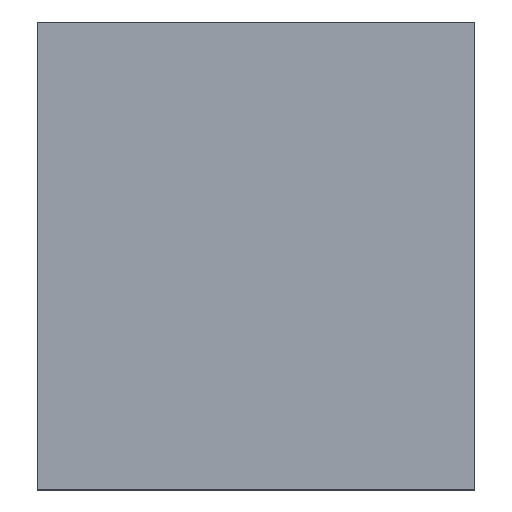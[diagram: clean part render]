
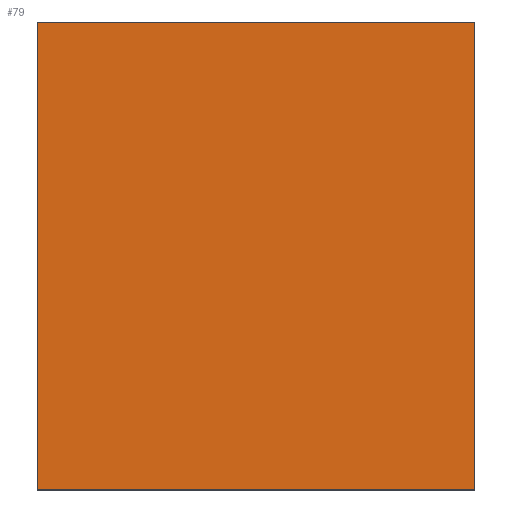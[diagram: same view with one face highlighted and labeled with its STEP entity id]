
A CAD part, top view. The second image highlights one B-rep face of the part: STEP entity #79.
In plain terms, the highlighted planar face has unit normal (0, 0, 1).
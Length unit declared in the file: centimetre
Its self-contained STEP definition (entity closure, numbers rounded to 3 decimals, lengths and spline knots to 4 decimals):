
#79=ADVANCED_FACE($,(#157),#885,.T.);
#157=FACE_OUTER_BOUND($,#235,.T.);
#235=EDGE_LOOP($,(#436,#437,#438,#439));
#436=ORIENTED_EDGE($,*,*,#663,.F.);
#437=ORIENTED_EDGE($,*,*,#662,.F.);
#438=ORIENTED_EDGE($,*,*,#661,.F.);
#439=ORIENTED_EDGE($,*,*,#660,.F.);
#660=EDGE_CURVE($,#792,#793,#998,.T.);
#661=EDGE_CURVE($,#793,#794,#999,.T.);
#662=EDGE_CURVE($,#794,#795,#1000,.T.);
#663=EDGE_CURVE($,#795,#792,#1001,.T.);
#792=VERTEX_POINT($,#1590);
#793=VERTEX_POINT($,#1591);
#794=VERTEX_POINT($,#1592);
#795=VERTEX_POINT($,#1593);
#885=PLANE($,#1207);
#998=B_SPLINE_CURVE_WITH_KNOTS($,1,(#1564,#1565),.UNSPECIFIED.,.F.,.F.,(2,
2),(0.,48.),.UNSPECIFIED.);
#999=B_SPLINE_CURVE_WITH_KNOTS($,1,(#1566,#1567),.UNSPECIFIED.,.F.,.F.,(2,
2),(0.,45.),.UNSPECIFIED.);
#1000=B_SPLINE_CURVE_WITH_KNOTS($,1,(#1568,#1569),.UNSPECIFIED.,.F.,.F.,
(2,2),(0.,48.),.UNSPECIFIED.);
#1001=B_SPLINE_CURVE_WITH_KNOTS($,1,(#1570,#1571),.UNSPECIFIED.,.F.,.F.,
(2,2),(0.,45.),.UNSPECIFIED.);
#1207=AXIS2_PLACEMENT_3D($,#1585,#1288,$);
#1288=DIRECTION($,(0.,0.,1.));
#1564=CARTESIAN_POINT($,(0.,0.,54.5));
#1565=CARTESIAN_POINT($,(0.,48.,54.5));
#1566=CARTESIAN_POINT($,(0.,48.,54.5));
#1567=CARTESIAN_POINT($,(45.,48.,54.5));
#1568=CARTESIAN_POINT($,(45.,48.,54.5));
#1569=CARTESIAN_POINT($,(45.,0.,54.5));
#1570=CARTESIAN_POINT($,(45.,0.,54.5));
#1571=CARTESIAN_POINT($,(0.,0.,54.5));
#1585=CARTESIAN_POINT($,(0.,0.,54.5));
#1590=CARTESIAN_POINT($,(0.,0.,54.5));
#1591=CARTESIAN_POINT($,(0.,48.,54.5));
#1592=CARTESIAN_POINT($,(45.,48.,54.5));
#1593=CARTESIAN_POINT($,(45.,0.,54.5));
